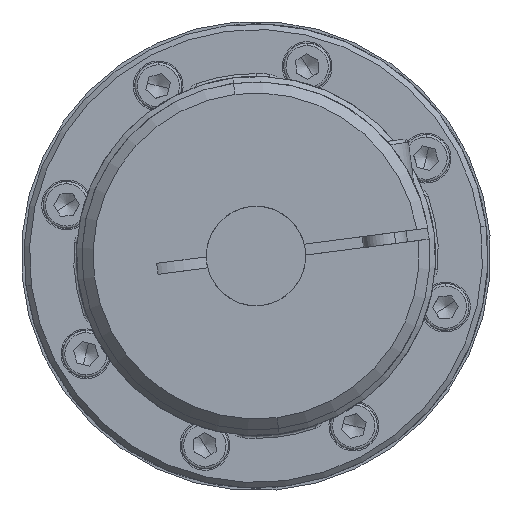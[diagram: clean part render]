
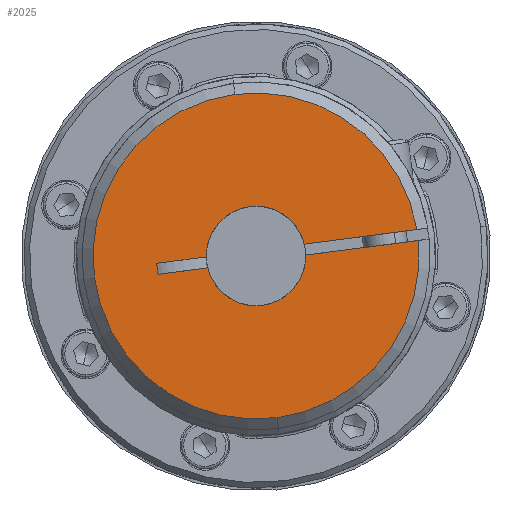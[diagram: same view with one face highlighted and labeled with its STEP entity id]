
A CAD part, left-side view. The second image highlights one B-rep face of the part: STEP entity #2025.
In plain terms, the highlighted planar face has unit normal (-1, 0, 0).
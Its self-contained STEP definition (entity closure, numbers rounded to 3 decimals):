
#2025=ADVANCED_FACE('',(#4795),#4796,.T.);
#4795=FACE_OUTER_BOUND('',#8386,.T.);
#4796=PLANE('',#8387);
#8386=EDGE_LOOP('',(#14590,#14591,#14592,#14593,#14594,#14595,#14596,#14597,#14598,#14599,#14600,#14601));
#8387=AXIS2_PLACEMENT_3D('',#14602,#14603,#14604);
#14590=ORIENTED_EDGE('',*,*,#23449,.T.);
#14591=ORIENTED_EDGE('',*,*,#23441,.T.);
#14592=ORIENTED_EDGE('',*,*,#23467,.F.);
#14593=ORIENTED_EDGE('',*,*,#22683,.T.);
#14594=ORIENTED_EDGE('',*,*,#22688,.T.);
#14595=ORIENTED_EDGE('',*,*,#23514,.T.);
#14596=ORIENTED_EDGE('',*,*,#23475,.T.);
#14597=ORIENTED_EDGE('',*,*,#23455,.T.);
#14598=ORIENTED_EDGE('',*,*,#23453,.T.);
#14599=ORIENTED_EDGE('',*,*,#23515,.T.);
#14600=ORIENTED_EDGE('',*,*,#23516,.T.);
#14601=ORIENTED_EDGE('',*,*,#23463,.F.);
#14602=CARTESIAN_POINT('',(-120.5,-25.74,33.451));
#14603=DIRECTION('',(-1.0,0.,0.0));
#14604=DIRECTION('',(0.0,0.0,-1.0));
#22683=EDGE_CURVE('',#27857,#27855,#27858,.F.);
#22688=EDGE_CURVE('',#27855,#27863,#27866,.F.);
#23441=EDGE_CURVE('',#29142,#29147,#29149,.T.);
#23449=EDGE_CURVE('',#29163,#29142,#29164,.T.);
#23453=EDGE_CURVE('',#29152,#29169,#29171,.T.);
#23455=EDGE_CURVE('',#29173,#29152,#29174,.T.);
#23463=EDGE_CURVE('',#29163,#29183,#29184,.F.);
#23467=EDGE_CURVE('',#27857,#29147,#29188,.F.);
#23475=EDGE_CURVE('',#29197,#29173,#29198,.T.);
#23514=EDGE_CURVE('',#27863,#29197,#29251,.F.);
#23515=EDGE_CURVE('',#29169,#29252,#29253,.T.);
#23516=EDGE_CURVE('',#29252,#29183,#29254,.F.);
#27855=VERTEX_POINT('',#36337);
#27857=VERTEX_POINT('',#36340);
#27858=CIRCLE('',#36341,29.5);
#27863=VERTEX_POINT('',#36349);
#27866=CIRCLE('',#36353,29.5);
#29142=VERTEX_POINT('',#38856);
#29147=VERTEX_POINT('',#38862);
#29149=CIRCLE('',#38865,9.0);
#29152=VERTEX_POINT('',#38868);
#29163=VERTEX_POINT('',#38882);
#29164=CIRCLE('',#38883,9.0);
#29169=VERTEX_POINT('',#38898);
#29171=CIRCLE('',#38901,9.0);
#29173=VERTEX_POINT('',#38903);
#29174=CIRCLE('',#38904,9.0);
#29183=VERTEX_POINT('',#38916);
#29184=LINE('',#38917,#38918);
#29188=LINE('',#38922,#38923);
#29197=VERTEX_POINT('',#38935);
#29198=LINE('',#38936,#38937);
#29251=CIRCLE('',#39192,29.5);
#29252=VERTEX_POINT('',#39193);
#29253=LINE('',#39194,#39195);
#29254=LINE('',#39196,#39197);
#36337=CARTESIAN_POINT('',(-120.5,3.802,29.254));
#36340=CARTESIAN_POINT('',(-120.5,-29.108,4.792));
#36341=AXIS2_PLACEMENT_3D('',#46439,#46440,#46441);
#36349=CARTESIAN_POINT('',(-120.5,-3.802,-29.254));
#36353=AXIS2_PLACEMENT_3D('',#46446,#46447,#46448);
#38856=CARTESIAN_POINT('',(-120.5,0.,9.0));
#38862=CARTESIAN_POINT('',(-120.5,-8.741,2.144));
#38865=AXIS2_PLACEMENT_3D('',#47586,#47587,#47588);
#38868=CARTESIAN_POINT('',(-120.5,0.,-9.0));
#38882=CARTESIAN_POINT('',(-120.5,8.999,-0.161));
#38883=AXIS2_PLACEMENT_3D('',#47601,#47602,#47603);
#38898=CARTESIAN_POINT('',(-120.5,8.741,-2.144));
#38901=AXIS2_PLACEMENT_3D('',#47606,#47607,#47608);
#38903=CARTESIAN_POINT('',(-120.5,-8.999,0.161));
#38904=AXIS2_PLACEMENT_3D('',#47609,#47610,#47611);
#38916=CARTESIAN_POINT('',(-120.5,17.979,-1.328));
#38917=CARTESIAN_POINT('',(-120.5,17.979,-1.328));
#38918=VECTOR('',#47621,47.483);
#38922=CARTESIAN_POINT('',(-120.5,17.979,-1.328));
#38923=VECTOR('',#47628,47.483);
#38935=CARTESIAN_POINT('',(-120.5,-29.366,2.808));
#38936=CARTESIAN_POINT('',(-120.5,-29.366,2.808));
#38937=VECTOR('',#47635,47.483);
#39192=AXIS2_PLACEMENT_3D('',#47697,#47698,#47699);
#39193=CARTESIAN_POINT('',(-120.5,17.721,-3.312));
#39194=CARTESIAN_POINT('',(-120.5,-29.366,2.808));
#39195=VECTOR('',#47700,47.483);
#39196=CARTESIAN_POINT('',(-120.5,17.979,-1.328));
#39197=VECTOR('',#47701,2.);
#46439=CARTESIAN_POINT('',(-120.5,0.,0.));
#46440=DIRECTION('',(1.0,0.,0.0));
#46441=DIRECTION('',(0.,-0.129,-0.992));
#46446=CARTESIAN_POINT('',(-120.5,0.,0.));
#46447=DIRECTION('',(1.0,0.,0.0));
#46448=DIRECTION('',(0.,-0.129,-0.992));
#47586=CARTESIAN_POINT('',(-120.5,0.0,0.));
#47587=DIRECTION('',(1.0,0.,0.));
#47588=DIRECTION('',(0.0,0.,-1.0));
#47601=CARTESIAN_POINT('',(-120.5,0.0,0.));
#47602=DIRECTION('',(1.0,0.,0.));
#47603=DIRECTION('',(0.0,0.,-1.0));
#47606=CARTESIAN_POINT('',(-120.5,0.0,0.));
#47607=DIRECTION('',(1.0,0.,0.));
#47608=DIRECTION('',(0.0,0.,-1.0));
#47609=CARTESIAN_POINT('',(-120.5,0.0,0.));
#47610=DIRECTION('',(1.0,0.,0.));
#47611=DIRECTION('',(0.0,0.,-1.0));
#47621=DIRECTION('',(0.,-0.992,0.129));
#47628=DIRECTION('',(0.,-0.992,0.129));
#47635=DIRECTION('',(0.,0.992,-0.129));
#47697=CARTESIAN_POINT('',(-120.5,0.,0.));
#47698=DIRECTION('',(1.0,0.,0.0));
#47699=DIRECTION('',(0.,-0.129,-0.992));
#47700=DIRECTION('',(0.,0.992,-0.129));
#47701=DIRECTION('',(0.,-0.129,-0.992));
